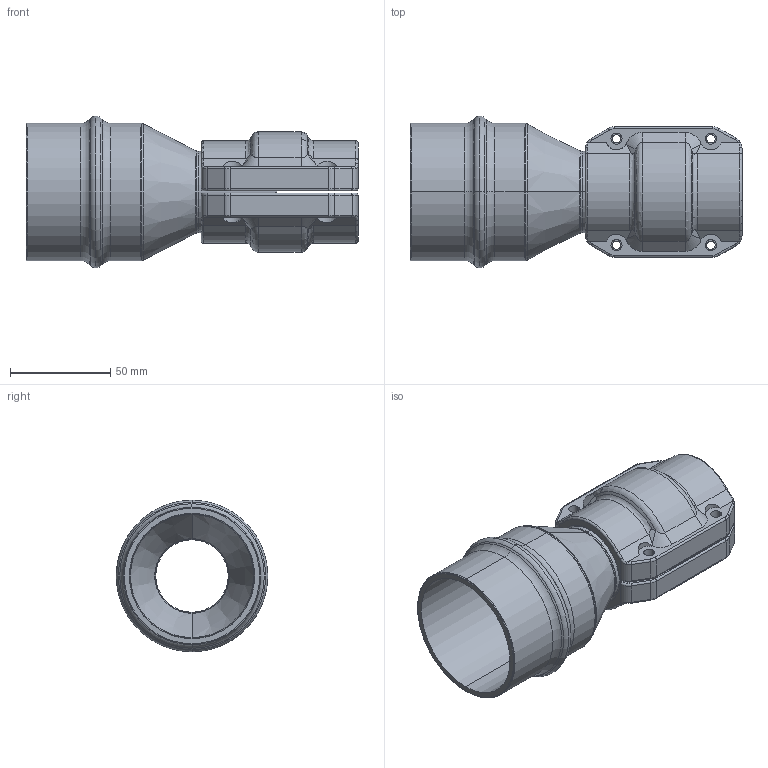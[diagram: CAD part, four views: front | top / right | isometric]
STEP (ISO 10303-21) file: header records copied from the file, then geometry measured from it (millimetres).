
FILE_DESCRIPTION((''),'2;1');
FILE_NAME('2016642199_ASM','2017-05-12T',('Administrator'),(''),'PRO/ENGINEER BY PARAMETRIC TECHNOLOGY CORPORATION, 2009360','PRO/ENGINEER BY PARAMETRIC TECHNOLOGY CORPORATION, 2009360','');
FILE_SCHEMA(('AUTOMOTIVE_DESIGN_CC2 { 1 2 10303 214 -1 1 5 2 }'));
Length unit declared in the file: millimetre
Products named in the file (5): 2016642100; 201540020001; 201540020000; 2015400200_ASM; 2016642199_ASM
Assembly tree (4 placements, depth 3):
  2016642199_ASM
    2016642100
    2015400200_ASM
      201540020001
      201540020000
Bounding box: 165.31 x 75.56 x 75.56 mm (x, y, z)
Volume: 171162 mm3; surface area: 75239.1 mm2
Topology: 3 solids, 3 shells, 264 faces, 645 edges, 387 vertices
Faces by surface type: cylinder 102, torus 80, plane 38, bspline 24, cone 12, sphere 8
Entity records: 10987 total; most frequent: CARTESIAN_POINT 2752, DIRECTION 1358, ORIENTED_EDGE 1290, PRESENTATION_STYLE_ASSIGNMENT 648, STYLED_ITEM 648, CURVE_STYLE 645, EDGE_CURVE 645, AXIS2_PLACEMENT_3D 582
